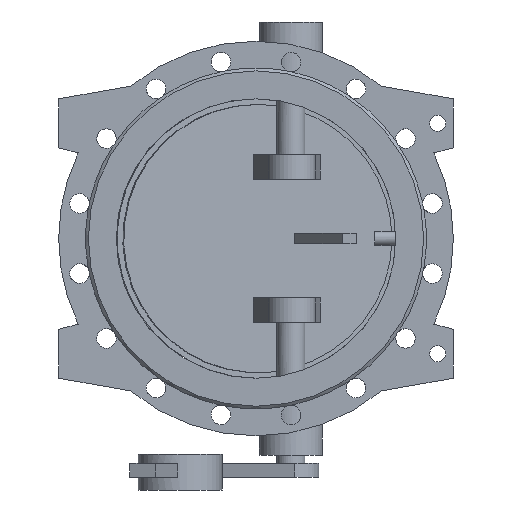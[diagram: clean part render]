
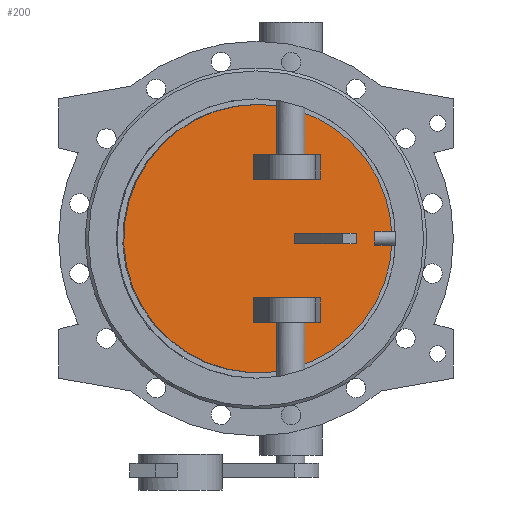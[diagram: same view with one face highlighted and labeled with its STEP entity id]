
A CAD part, front view. The second image highlights one B-rep face of the part: STEP entity #200.
In plain terms, the highlighted planar face has unit normal (0.131, -0.991, 0).
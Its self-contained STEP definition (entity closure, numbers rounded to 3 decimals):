
#200=ADVANCED_FACE('',(#1367,#1369,#1371,#1373),#1375,.T.);
#1367=FACE_BOUND('',#1368,.T.);
#1368=EDGE_LOOP('',(#2562));
#1369=FACE_BOUND('',#1370,.T.);
#1370=EDGE_LOOP('',(#2563,#2564,#2565,#2566));
#1371=FACE_BOUND('',#1372,.T.);
#1372=EDGE_LOOP('',(#2567,#2568,#2569,#2570));
#1373=FACE_BOUND('',#1374,.T.);
#1374=EDGE_LOOP('',(#2571,#2572,#2573,#2574));
#1375=PLANE('',#1376);
#1376=AXIS2_PLACEMENT_3D('',#1377,#1378,#1379);
#1377=CARTESIAN_POINT('',(-1.272,9.66,0.));
#1378=DIRECTION('',(0.131,-0.991,0.));
#1379=DIRECTION('',(0.,0.,-1.));
#2562=ORIENTED_EDGE('',*,*,#3201,.T.);
#2563=ORIENTED_EDGE('',*,*,#3269,.F.);
#2564=ORIENTED_EDGE('',*,*,#3270,.F.);
#2565=ORIENTED_EDGE('',*,*,#3271,.F.);
#2566=ORIENTED_EDGE('',*,*,#3272,.F.);
#2567=ORIENTED_EDGE('',*,*,#3273,.F.);
#2568=ORIENTED_EDGE('',*,*,#3274,.F.);
#2569=ORIENTED_EDGE('',*,*,#3275,.F.);
#2570=ORIENTED_EDGE('',*,*,#3276,.F.);
#2571=ORIENTED_EDGE('',*,*,#3277,.F.);
#2572=ORIENTED_EDGE('',*,*,#3278,.F.);
#2573=ORIENTED_EDGE('',*,*,#3279,.F.);
#2574=ORIENTED_EDGE('',*,*,#3280,.F.);
#3201=EDGE_CURVE('',#3586,#3586,#3587,.T.);
#3269=EDGE_CURVE('',#3722,#3723,#3724,.T.);
#3270=EDGE_CURVE('',#3725,#3722,#3726,.F.);
#3271=EDGE_CURVE('',#3727,#3725,#3728,.T.);
#3272=EDGE_CURVE('',#3723,#3727,#3729,.T.);
#3273=EDGE_CURVE('',#3730,#3731,#3732,.F.);
#3274=EDGE_CURVE('',#3733,#3730,#3734,.T.);
#3275=EDGE_CURVE('',#3735,#3733,#3736,.T.);
#3276=EDGE_CURVE('',#3731,#3735,#3737,.T.);
#3277=EDGE_CURVE('',#3738,#3739,#3740,.T.);
#3278=EDGE_CURVE('',#3741,#3738,#3742,.F.);
#3279=EDGE_CURVE('',#3743,#3741,#3744,.F.);
#3280=EDGE_CURVE('',#3739,#3743,#3745,.F.);
#3586=VERTEX_POINT('',#4581);
#3587=B_SPLINE_CURVE_WITH_KNOTS('',3,
(#4582,#4583,#4584,#4585,#4586,#4587,#4588,#4589,#4590,#4591,#4592,#4593,#4594,#4595,
#4596,#4597,#4598,#4599,#4600,#4601,#4602,#4603,#4604,#4605,#4606,#4607,#4608,#4609,
#4610,#4611,#4612,#4613,#4614,#4615,#4616,#4617,#4618,#4619,#4620,#4621,#4622,#4623,
#4624,#4625,#4626,#4627,#4628,#4629,#4630,#4631,#4632),
.UNSPECIFIED.,.T.,.F.,
(4,1,1,1,1,1,1,1,1,1,1,1,1,1,1,1,1,1,1,1,1,1,1,1,1,1,1,1,1,1,1,1,1,1,1,1,1,1,1,1,
1,1,1,1,1,1,1,1,4),
(0.,0.021,0.042,0.063,0.084,0.105,
0.126,0.147,0.168,0.189,0.211,
0.232,0.253,0.274,0.295,0.316,
0.337,0.358,0.379,0.4,0.421,
0.442,0.463,0.484,0.505,0.526,
0.548,0.569,0.59,0.611,0.632,
0.653,0.674,0.695,0.716,0.737,
0.758,0.779,0.8,0.821,0.843,
0.864,0.885,0.906,0.927,0.948,
0.969,0.986,1.),
.UNSPECIFIED.);
#3722=VERTEX_POINT('',#6215);
#3723=VERTEX_POINT('',#6216);
#3724=LINE('',#6217,#6218);
#3725=VERTEX_POINT('',#6220);
#3726=LINE('',#6221,#6222);
#3727=VERTEX_POINT('',#6224);
#3728=LINE('',#6225,#6226);
#3729=LINE('',#6228,#6229);
#3730=VERTEX_POINT('',#6231);
#3731=VERTEX_POINT('',#6232);
#3732=LINE('',#6233,#6234);
#3733=VERTEX_POINT('',#6236);
#3734=LINE('',#6237,#6238);
#3735=VERTEX_POINT('',#6240);
#3736=LINE('',#6241,#6242);
#3737=LINE('',#6244,#6245);
#3738=VERTEX_POINT('',#6247);
#3739=VERTEX_POINT('',#6248);
#3740=LINE('',#6249,#6250);
#3741=VERTEX_POINT('',#6252);
#3742=LINE('',#6253,#6254);
#3743=VERTEX_POINT('',#6256);
#3744=LINE('',#6257,#6258);
#3745=LINE('',#6260,#6261);
#4581=CARTESIAN_POINT('',(2.611,10.171,192.));
#4582=CARTESIAN_POINT('',(2.611,10.171,192.));
#4583=CARTESIAN_POINT('',(-5.823,9.061,192.));
#4584=CARTESIAN_POINT('',(-22.711,6.837,190.886));
#4585=CARTESIAN_POINT('',(-47.636,3.556,185.894));
#4586=CARTESIAN_POINT('',(-71.72,0.385,177.648));
#4587=CARTESIAN_POINT('',(-94.522,-2.617,166.288));
#4588=CARTESIAN_POINT('',(-115.624,-5.395,152.021));
#4589=CARTESIAN_POINT('',(-134.659,-7.901,135.094));
#4590=CARTESIAN_POINT('',(-151.295,-10.091,115.801));
#4591=CARTESIAN_POINT('',(-165.239,-11.927,94.481));
#4592=CARTESIAN_POINT('',(-176.246,-13.376,71.506));
#4593=CARTESIAN_POINT('',(-184.124,-14.413,47.279));
#4594=CARTESIAN_POINT('',(-188.733,-15.02,22.223));
#4595=CARTESIAN_POINT('',(-189.993,-15.186,-3.222));
#4596=CARTESIAN_POINT('',(-187.882,-14.908,-28.61));
#4597=CARTESIAN_POINT('',(-182.437,-14.191,-53.496));
#4598=CARTESIAN_POINT('',(-173.755,-13.048,-77.443));
#4599=CARTESIAN_POINT('',(-161.987,-11.499,-100.034));
#4600=CARTESIAN_POINT('',(-147.342,-9.57,-120.873));
#4601=CARTESIAN_POINT('',(-130.075,-7.297,-139.596));
#4602=CARTESIAN_POINT('',(-110.489,-4.719,-155.877));
#4603=CARTESIAN_POINT('',(-88.926,-1.88,-169.431));
#4604=CARTESIAN_POINT('',(-65.763,1.17,-180.023));
#4605=CARTESIAN_POINT('',(-41.405,4.376,-187.467));
#4606=CARTESIAN_POINT('',(-16.277,7.685,-191.633));
#4607=CARTESIAN_POINT('',(9.181,11.036,-192.449));
#4608=CARTESIAN_POINT('',(34.525,14.373,-189.9));
#4609=CARTESIAN_POINT('',(59.311,17.636,-184.03));
#4610=CARTESIAN_POINT('',(83.107,20.769,-174.942));
#4611=CARTESIAN_POINT('',(105.496,23.716,-162.794));
#4612=CARTESIAN_POINT('',(126.087,26.427,-147.798));
#4613=CARTESIAN_POINT('',(144.52,28.854,-130.215));
#4614=CARTESIAN_POINT('',(160.471,30.954,-110.353));
#4615=CARTESIAN_POINT('',(173.661,32.69,-88.558));
#4616=CARTESIAN_POINT('',(183.858,34.033,-65.212));
#4617=CARTESIAN_POINT('',(190.884,34.958,-40.724));
#4618=CARTESIAN_POINT('',(194.614,35.449,-15.522));
#4619=CARTESIAN_POINT('',(194.984,35.497,9.951));
#4620=CARTESIAN_POINT('',(191.986,35.103,35.249));
#4621=CARTESIAN_POINT('',(185.674,34.272,59.929));
#4622=CARTESIAN_POINT('',(176.16,33.019,83.558));
#4623=CARTESIAN_POINT('',(163.61,31.367,105.723));
#4624=CARTESIAN_POINT('',(148.246,29.344,126.037));
#4625=CARTESIAN_POINT('',(130.335,26.986,144.146));
#4626=CARTESIAN_POINT('',(110.196,24.335,159.729));
#4627=CARTESIAN_POINT('',(88.207,21.44,172.503));
#4628=CARTESIAN_POINT('',(64.684,18.343,182.29));
#4629=CARTESIAN_POINT('',(41.487,15.289,188.508));
#4630=CARTESIAN_POINT('',(20.631,12.544,191.462));
#4631=CARTESIAN_POINT('',(8.118,10.896,192.));
#4632=CARTESIAN_POINT('',(2.611,10.171,192.));
#6215=CARTESIAN_POINT('',(129.358,26.858,-7.5));
#6216=CARTESIAN_POINT('',(129.358,26.858,7.5));
#6217=CARTESIAN_POINT('',(129.358,26.858,-7.5));
#6218=VECTOR('',#6219,1.);
#6219=DIRECTION('',(0.,0.,1.));
#6220=CARTESIAN_POINT('',(55.,17.068,-7.5));
#6221=CARTESIAN_POINT('',(129.358,26.858,-7.5));
#6222=VECTOR('',#6223,1.);
#6223=DIRECTION('',(-0.991,-0.131,0.));
#6224=CARTESIAN_POINT('',(55.,17.068,7.5));
#6225=CARTESIAN_POINT('',(55.,17.068,7.5));
#6226=VECTOR('',#6227,1.);
#6227=DIRECTION('',(0.,0.,-1.));
#6228=CARTESIAN_POINT('',(129.358,26.858,7.5));
#6229=VECTOR('',#6230,1.);
#6230=DIRECTION('',(-0.991,-0.131,0.));
#6231=CARTESIAN_POINT('',(-4.154,9.281,-120.));
#6232=CARTESIAN_POINT('',(92.142,21.958,-120.));
#6233=CARTESIAN_POINT('',(92.142,21.958,-120.));
#6234=VECTOR('',#6235,1.);
#6235=DIRECTION('',(-0.991,-0.131,0.));
#6236=CARTESIAN_POINT('',(-4.154,9.281,-85.));
#6237=CARTESIAN_POINT('',(-4.154,9.281,-85.));
#6238=VECTOR('',#6239,1.);
#6239=DIRECTION('',(0.,0.,-1.));
#6240=CARTESIAN_POINT('',(92.142,21.958,-85.));
#6241=CARTESIAN_POINT('',(92.142,21.958,-85.));
#6242=VECTOR('',#6243,1.);
#6243=DIRECTION('',(-0.991,-0.131,0.));
#6244=CARTESIAN_POINT('',(92.142,21.958,-120.));
#6245=VECTOR('',#6246,1.);
#6246=DIRECTION('',(0.,0.,1.));
#6247=CARTESIAN_POINT('',(92.142,21.958,120.));
#6248=CARTESIAN_POINT('',(-4.154,9.281,120.));
#6249=CARTESIAN_POINT('',(92.142,21.958,120.));
#6250=VECTOR('',#6251,1.);
#6251=DIRECTION('',(-0.991,-0.131,0.));
#6252=CARTESIAN_POINT('',(92.142,21.958,85.));
#6253=CARTESIAN_POINT('',(92.142,21.958,120.));
#6254=VECTOR('',#6255,1.);
#6255=DIRECTION('',(0.,0.,-1.));
#6256=CARTESIAN_POINT('',(-4.154,9.281,85.));
#6257=CARTESIAN_POINT('',(92.142,21.958,85.));
#6258=VECTOR('',#6259,1.);
#6259=DIRECTION('',(-0.991,-0.131,0.));
#6260=CARTESIAN_POINT('',(-4.154,9.281,85.));
#6261=VECTOR('',#6262,1.);
#6262=DIRECTION('',(0.,0.,1.));
